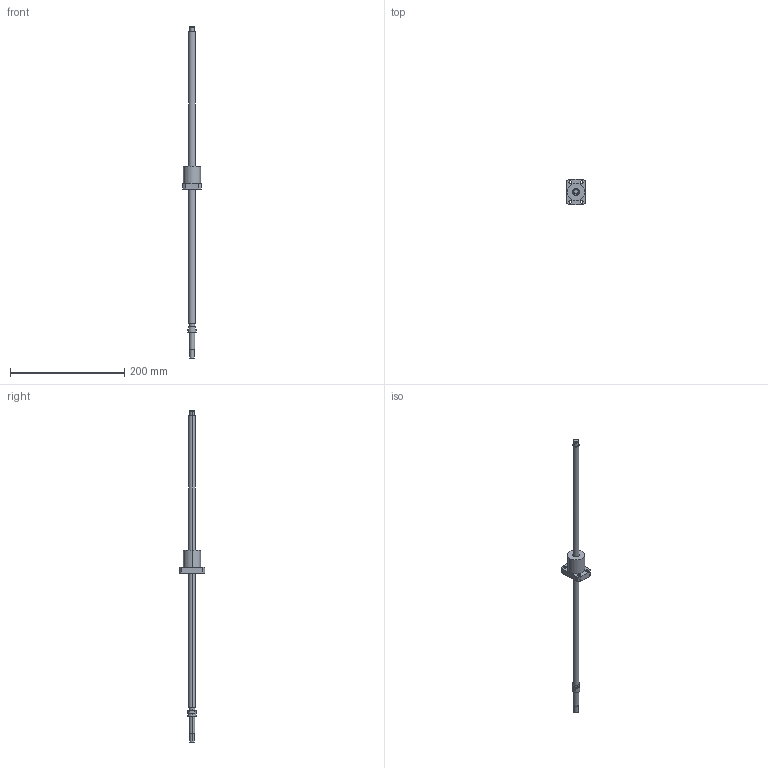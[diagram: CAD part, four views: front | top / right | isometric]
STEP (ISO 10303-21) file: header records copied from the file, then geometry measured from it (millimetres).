
FILE_DESCRIPTION((''),'2;1');
FILE_NAME('R12-5B1-FSW-510-580','2008-03-28T',('mahdi'),(''),'PRO/ENGINEER BY PARAMETRIC TECHNOLOGY CORPORATION, 2005070','PRO/ENGINEER BY PARAMETRIC TECHNOLOGY CORPORATION, 2005070','');
FILE_SCHEMA(('CONFIG_CONTROL_DESIGN'));
Length unit declared in the file: millimetre
Products named in the file (1): R12-5B1-FSW-510-580
Bounding box: 32 x 45 x 580 mm (x, y, z)
Volume: 92723.1 mm3; surface area: 27757.7 mm2
Topology: 1 solids, 1 shells, 64 faces, 144 edges, 96 vertices
Faces by surface type: cylinder 40, plane 24
Entity records: 1886 total; most frequent: DIRECTION 356, CARTESIAN_POINT 304, ORIENTED_EDGE 288, AXIS2_PLACEMENT_3D 148, EDGE_CURVE 144, VERTEX_POINT 96, EDGE_LOOP 86, CIRCLE 84
